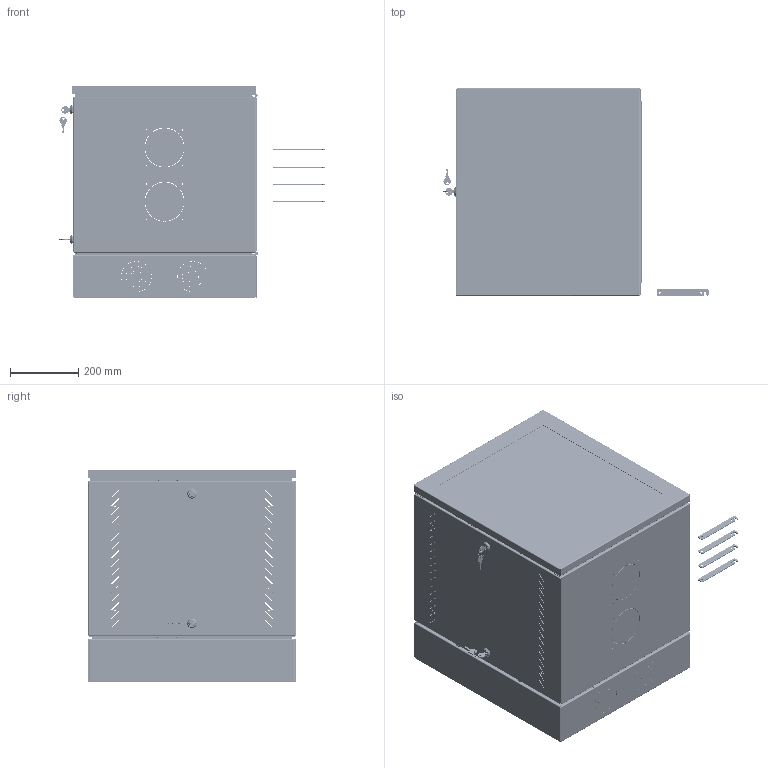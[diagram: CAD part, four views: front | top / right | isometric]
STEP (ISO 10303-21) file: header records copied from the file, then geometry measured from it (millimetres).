
FILE_DESCRIPTION(/* description */ ('48H x 24W x 24 WD w/SOLID DOOR, , DUAL FAN KIT'),/* implementation_level */ '2;1');
FILE_NAME(/* name */ 'C:\STEP_FILES\GL24WMP-B-00.stp',/* time_stamp */ '2020-07-29T10:02:34-04:00',/* author */ ('TomD'),/* organization */ (''),/* preprocessor_version */ 'ST-DEVELOPER v17',/* originating_system */ 'Autodesk Inventor 2018',/* authorisation */ '');
FILE_SCHEMA (('AUTOMOTIVE_DESIGN { 1 0 10303 214 3 1 1 }'));
Products named in the file (55): GL24WMP-B-AF; 24WM01X100; I005293; I019042; I005283; I005294; I005294_1; SS0322; I005295; I005295_1; I004729; I005297; I005298; I005296; 10117-32728;  _1;  _2;  _3;  _4;  _5; CAMR; CAML; H01-078; C372110; GASKET.312X.500; GASKET.500X.312; GASKET.500X.312_1; I001110; 2ZN746; 2ZN143813; M6CNKESJ; GLM-LABEL_GROUND; 24WM02X200; 24WM02X100; I003780; I003781; I003781_1; S8322; FH0328; M90-002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
Assembly tree (141 placements, depth 6):
  GL24WMP-B-AF
    24WM01X100
      I005293
        I019042
        I005283
        I005294
          I005294_1
          SS0322  x12
        I005295
          I005295_1
          S8322  x2
        I004729  x4
        CN-050CHBS
      I005297
        I005298
        M90-002
          I003777RIGHTHINGE1
          I003777LEFTHINGE1
          I003777HINGE PIN
        CN-050CHBS
      I005296  x4
      10117-32728  x2
         
         _1
         _2
         _4
         _3
         _5
      CAMR
      CAML
      C372110  x2
      C377--
      SCR832X375BLK  x2
      H01-078  x6
      GASKET.312X.500_1  x2
      GASKET.312X.500_3
      GASKET.312X.500_4
      GASKET.312X.500
      GASKET.500X.312  x4
      GASKET.500X.312_1  x4
      I001110  x4
      2ZN746  x8
      2ZN143813  x8
      M6CNKESJ  x2
      GLM-LABEL_GROUND
    24WM02X200
      24WM02X100
        I003780
          I003781
            I003781_1
            S8322  x2
            FH0328  x8
          M90-002
            I003777RIGHTHINGE1
            I003777LEFTHINGE1
            I003777HINGE PIN
          CN-050CHBS
        H02-006  x8
        C377--
        SCR832X375BLK  x2
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Bounding box: 777.68 x 609.6 x 623.32 mm (x, y, z)
Volume: 5807030 mm3; surface area: 5598245.6 mm2
Topology: 140 solids, 140 shells, 4141 faces, 11558 edges, 7779 vertices
Faces by surface type: plane 2547, cylinder 1372, cone 100, bspline 68, torus 34, sphere 20
Full cylindrical faces by diameter (mm): 0.762 x1, 1.27 x2, 3.251 x52, 3.302 x4, 3.962 x20, 4.166 x4, 4.343 x144, 4.572 x8, 4.75 x2, 4.775 x16, 4.826 x20, 4.839 x8, 4.917 x8, 4.978 x2, 5.156 x16, 5.41 x6, 5.448 x2, 5.944 x8, 5.994 x3, 6 x12, 6.35 x36, 6.388 x12, 6.502 x8, 6.731 x8, 7.394 x2, 7.874 x4, 8.077 x3, 8.179 x4, 8.636 x12, 8.89 x8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
Entity records: 76270 total; most frequent: CARTESIAN_POINT 14330, DIRECTION 12393, ORIENTED_EDGE 12354, EDGE_CURVE 6177, LINE 4245, VECTOR 4245, VERTEX_POINT 4149, AXIS2_PLACEMENT_3D 4074
